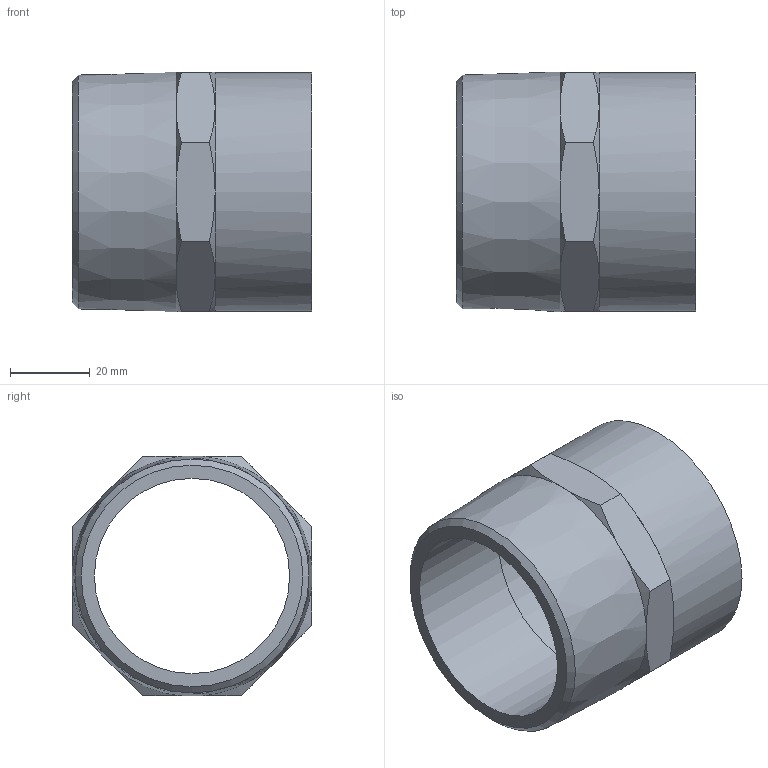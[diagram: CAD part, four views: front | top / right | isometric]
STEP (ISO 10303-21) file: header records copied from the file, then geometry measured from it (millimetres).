
FILE_DESCRIPTION((''),'2;1');
FILE_NAME('\\Lg50001\Groups\SANHA Legnica\Engineering\Public\RYSUNKI\SANHA POLSKA\4243G\step\14243_54-2(4).stp','2008-08-27T09:07:59',('pajchrowski'),(''),'Autodesk Inventor 2008','Autodesk Inventor 2008','');
FILE_SCHEMA(('AUTOMOTIVE_DESIGN { 1 0 10303 214 1 1 1 1 }'));
Length unit declared in the file: millimetre
Products named in the file (1): 14243_54-2(4)
Bounding box: 60 x 60.23 x 60.22 mm (x, y, z)
Volume: 43372.7 mm3; surface area: 22860.6 mm2
Topology: 1 solids, 1 shells, 40 faces, 85 edges, 48 vertices
Faces by surface type: plane 19, cone 18, cylinder 3
Full cylindrical faces by diameter (mm): 49 x1, 54 x1, 60 x1
Entity records: 1016 total; most frequent: CARTESIAN_POINT 231, DIRECTION 160, ORIENTED_EDGE 158, EDGE_CURVE 79, AXIS2_PLACEMENT_3D 72, EDGE_LOOP 48, VERTEX_POINT 47, FACE_OUTER_BOUND 40
